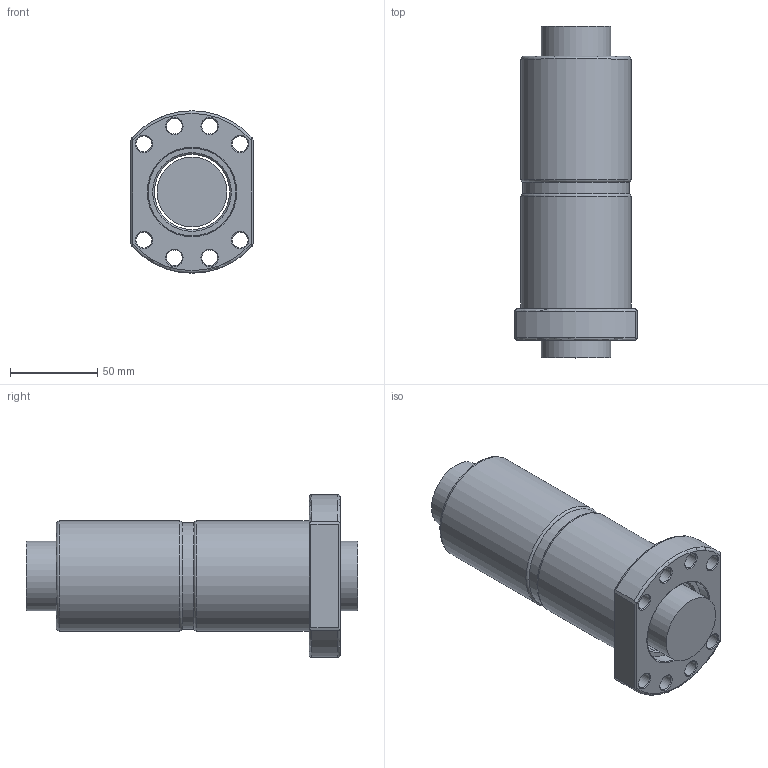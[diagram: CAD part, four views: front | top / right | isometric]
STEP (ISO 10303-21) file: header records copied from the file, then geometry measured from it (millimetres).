
FILE_DESCRIPTION(/* description */ (''),/* implementation_level */ '2;1');
FILE_NAME(/* name */ '4010.prt.step',/* time_stamp */ '2008-12-05T09:28:05+08:00',/* author */ (''),/* organization */ (''),/* preprocessor_version */ 'ST-DEVELOPER v11',/* originating_system */ 'SIEMENS UGS NX 6.0',/* authorisation */ '');
FILE_SCHEMA (('AUTOMOTIVE_DESIGN { 1 0 10303 214 1 1 1 1 }'));
Length unit declared in the file: millimetre
Products named in the file (1): 4010
Bounding box: 70 x 190 x 93 mm (x, y, z)
Volume: 535366.4 mm3; surface area: 99044.6 mm2
Topology: 4 solids, 4 shells, 75 faces, 166 edges, 104 vertices
Faces by surface type: plane 23, cylinder 21, cone 20, torus 11
Full cylindrical faces by diameter (mm): 9 x8, 39.95 x1, 43 x2, 44 x1, 50.3 x4, 61 x1, 63 x2
Entity records: 2073 total; most frequent: CARTESIAN_POINT 526, DIRECTION 322, ORIENTED_EDGE 226, AXIS2_PLACEMENT_3D 149, EDGE_LOOP 148, FACE_BOUND 130, EDGE_CURVE 113, VERTEX_POINT 97
